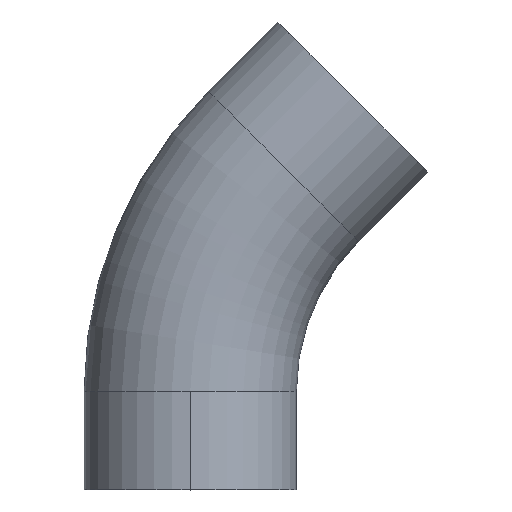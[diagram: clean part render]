
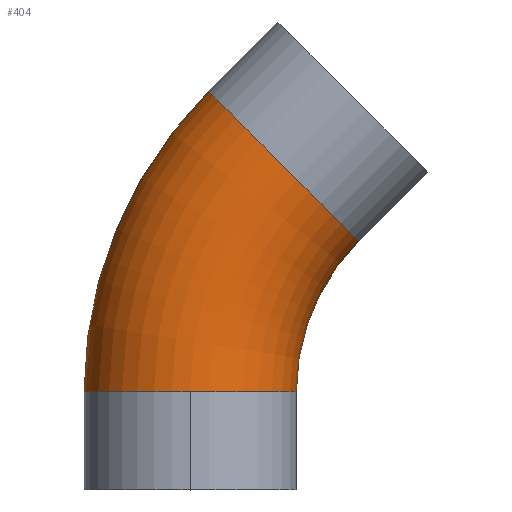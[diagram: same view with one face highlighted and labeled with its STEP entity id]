
A CAD part, top view. The second image highlights one B-rep face of the part: STEP entity #404.
In plain terms, the highlighted toroidal (fillet/blend) face has major radius 57.15 mm and minor radius 19.05 mm.
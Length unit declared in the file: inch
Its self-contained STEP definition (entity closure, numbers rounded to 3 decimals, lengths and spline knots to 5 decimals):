
#2 = ORIENTED_EDGE ( 'NONE', *, *, #359, .T. ) ;
#37 = CIRCLE ( 'NONE', #269, 1.5 ) ;
#50 = CARTESIAN_POINT ( 'NONE',  ( 0., 0.69302, 0.75 ) ) ;
#56 = DIRECTION ( 'NONE',  ( 0., 0., 1. ) ) ;
#63 = DIRECTION ( 'NONE',  ( 0., 0., 1. ) ) ;
#76 = DIRECTION ( 'NONE',  ( 0.707, 0.707, 0. ) ) ;
#88 = DIRECTION ( 'NONE',  ( 0., 1., 0. ) ) ;
#91 = FACE_OUTER_BOUND ( 'NONE', #202, .T. ) ;
#93 = CARTESIAN_POINT ( 'NONE',  ( 0.75, 0.69302, 0. ) ) ;
#99 = ORIENTED_EDGE ( 'NONE', *, *, #363, .F. ) ;
#115 = CIRCLE ( 'NONE', #255, 0.75 ) ;
#122 = CARTESIAN_POINT ( 'NONE',  ( 0., 0.69302, 0. ) ) ;
#143 = VERTEX_POINT ( 'NONE', #93 ) ;
#146 = VERTEX_POINT ( 'NONE', #398 ) ;
#166 = VERTEX_POINT ( 'NONE', #270 ) ;
#170 = DIRECTION ( 'NONE',  ( -1., 0., 0. ) ) ;
#196 = DIRECTION ( 'NONE',  ( 0., 0., 1. ) ) ;
#201 = VERTEX_POINT ( 'NONE', #472 ) ;
#202 = EDGE_LOOP ( 'NONE', ( #99, #2, #478, #311, #391 ) ) ;
#209 = AXIS2_PLACEMENT_3D ( 'NONE', #377, #196, #485 ) ;
#217 = CIRCLE ( 'NONE', #247, 0.75 ) ;
#247 = AXIS2_PLACEMENT_3D ( 'NONE', #328, #76, #376 ) ;
#250 = AXIS2_PLACEMENT_3D ( 'NONE', #307, #63, #349 ) ;
#255 = AXIS2_PLACEMENT_3D ( 'NONE', #346, #88, #390 ) ;
#266 = AXIS2_PLACEMENT_3D ( 'NONE', #122, #426, #170 ) ;
#269 = AXIS2_PLACEMENT_3D ( 'NONE', #301, #56, #344 ) ;
#270 = CARTESIAN_POINT ( 'NONE',  ( 1.18934, 1.75368, 0. ) ) ;
#301 = CARTESIAN_POINT ( 'NONE',  ( 2.25, 0.69302, 0. ) ) ;
#307 = CARTESIAN_POINT ( 'NONE',  ( 2.25, 0.69302, 0. ) ) ;
#311 = ORIENTED_EDGE ( 'NONE', *, *, #345, .T. ) ;
#328 = CARTESIAN_POINT ( 'NONE',  ( 0.65901, 2.28401, 0. ) ) ;
#339 = EDGE_CURVE ( 'NONE', #166, #143, #37, .T. ) ;
#340 = CIRCLE ( 'NONE', #250, 3. ) ;
#344 = DIRECTION ( 'NONE',  ( 1., 0., 0. ) ) ;
#345 = EDGE_CURVE ( 'NONE', #417, #143, #458, .T. ) ;
#346 = CARTESIAN_POINT ( 'NONE',  ( 0., 0.69302, 0. ) ) ;
#349 = DIRECTION ( 'NONE',  ( 1., 0., 0. ) ) ;
#352 = EDGE_CURVE ( 'NONE', #201, #417, #115, .T. ) ;
#359 = EDGE_CURVE ( 'NONE', #146, #201, #340, .T. ) ;
#363 = EDGE_CURVE ( 'NONE', #146, #166, #217, .T. ) ;
#376 = DIRECTION ( 'NONE',  ( -0.707, 0.707, 0. ) ) ;
#377 = CARTESIAN_POINT ( 'NONE',  ( 2.25, 0.69302, 0. ) ) ;
#390 = DIRECTION ( 'NONE',  ( -1., 0., 0. ) ) ;
#391 = ORIENTED_EDGE ( 'NONE', *, *, #339, .F. ) ;
#398 = CARTESIAN_POINT ( 'NONE',  ( 0.12868, 2.81434, 0. ) ) ;
#404 = ADVANCED_FACE ( 'NONE', ( #91 ), #418, .T. ) ;
#417 = VERTEX_POINT ( 'NONE', #50 ) ;
#418 = TOROIDAL_SURFACE ( 'NONE', #209, 2.25, 0.75 ) ;
#426 = DIRECTION ( 'NONE',  ( 0., 1., 0. ) ) ;
#458 = CIRCLE ( 'NONE', #266, 0.75 ) ;
#472 = CARTESIAN_POINT ( 'NONE',  ( -0.75, 0.69302, 0. ) ) ;
#478 = ORIENTED_EDGE ( 'NONE', *, *, #352, .T. ) ;
#485 = DIRECTION ( 'NONE',  ( 1., 0., 0. ) ) ;
